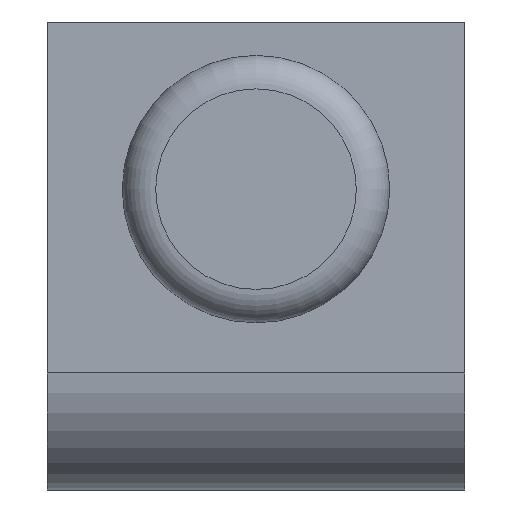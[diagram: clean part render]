
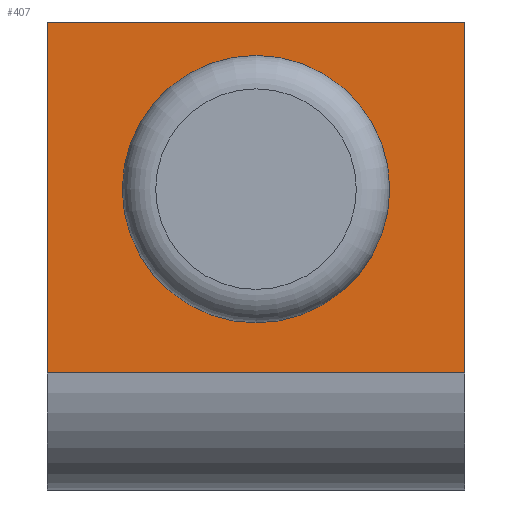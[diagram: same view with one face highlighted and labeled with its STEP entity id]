
A CAD part, left-side view. The second image highlights one B-rep face of the part: STEP entity #407.
In plain terms, the highlighted planar face has unit normal (-1, 0, 0).
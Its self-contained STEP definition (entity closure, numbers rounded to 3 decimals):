
#39=LINE('',#636,#63);
#51=LINE('',#672,#75);
#53=LINE('',#676,#77);
#55=LINE('',#679,#79);
#63=VECTOR('',#506,25.);
#75=VECTOR('',#544,20.998);
#77=VECTOR('',#548,25.);
#79=VECTOR('',#552,20.998);
#91=PLANE('',#448);
#104=FACE_BOUND('',#166,.T.);
#129=FACE_OUTER_BOUND('',#165,.T.);
#165=EDGE_LOOP('',(#352,#353,#354,#355));
#166=EDGE_LOOP('',(#356));
#187=CIRCLE('',#424,4.);
#209=VERTEX_POINT('',#611);
#212=VERTEX_POINT('',#617);
#217=VERTEX_POINT('',#628);
#228=VERTEX_POINT('',#671);
#229=VERTEX_POINT('',#675);
#243=EDGE_CURVE('',#209,#209,#187,.T.);
#255=EDGE_CURVE('',#217,#212,#39,.T.);
#271=EDGE_CURVE('',#228,#217,#51,.T.);
#273=EDGE_CURVE('',#229,#228,#53,.T.);
#275=EDGE_CURVE('',#212,#229,#55,.T.);
#352=ORIENTED_EDGE('',*,*,#255,.T.);
#353=ORIENTED_EDGE('',*,*,#275,.T.);
#354=ORIENTED_EDGE('',*,*,#273,.T.);
#355=ORIENTED_EDGE('',*,*,#271,.T.);
#356=ORIENTED_EDGE('',*,*,#243,.T.);
#407=ADVANCED_FACE('',(#129,#104),#91,.F.);
#424=AXIS2_PLACEMENT_3D('',#612,#481,#482);
#448=AXIS2_PLACEMENT_3D('',#680,#553,#554);
#481=DIRECTION('center_axis',(1.,0.,0.));
#482=DIRECTION('ref_axis',(0.,0.,-1.));
#506=DIRECTION('',(0.,-1.,0.));
#544=DIRECTION('',(0.,0.,-1.));
#548=DIRECTION('',(0.,1.,0.));
#552=DIRECTION('',(0.,0.,1.));
#553=DIRECTION('center_axis',(1.,0.,0.));
#554=DIRECTION('ref_axis',(0.,0.,-1.));
#611=CARTESIAN_POINT('',(-17.,0.,13.998));
#612=CARTESIAN_POINT('Origin',(-17.,0.,17.998));
#617=CARTESIAN_POINT('',(-17.,-12.5,7.));
#628=CARTESIAN_POINT('',(-17.,12.5,7.));
#636=CARTESIAN_POINT('',(-17.,-6.25,7.));
#671=CARTESIAN_POINT('',(-17.,12.5,27.998));
#672=CARTESIAN_POINT('',(-17.,12.5,27.998));
#675=CARTESIAN_POINT('',(-17.,-12.5,27.998));
#676=CARTESIAN_POINT('',(-17.,-12.5,27.998));
#679=CARTESIAN_POINT('',(-17.,-12.5,-42.002));
#680=CARTESIAN_POINT('Origin',(-17.,0.,-7.002));
